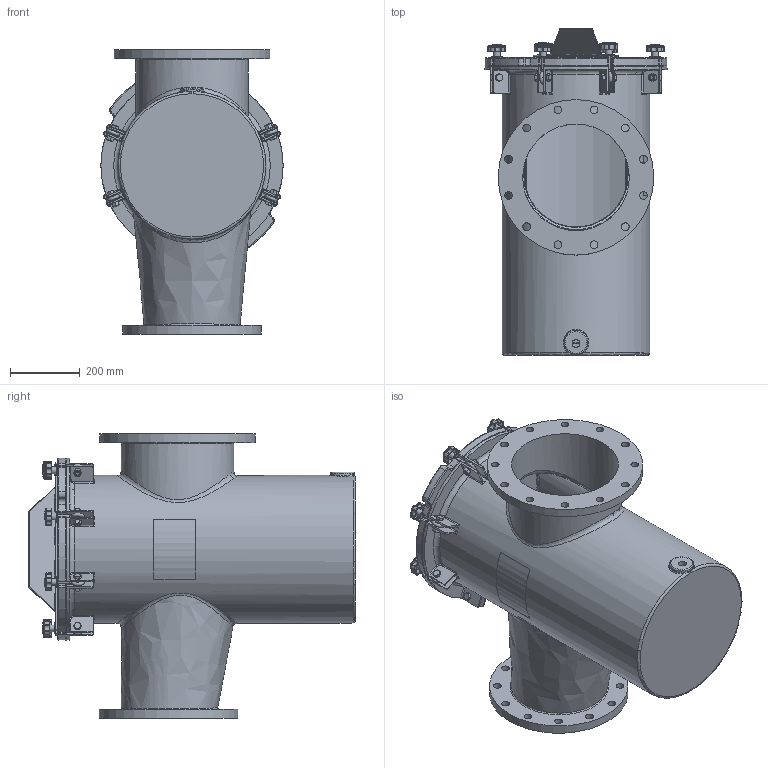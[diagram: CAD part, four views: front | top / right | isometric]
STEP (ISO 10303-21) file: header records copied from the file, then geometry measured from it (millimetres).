
FILE_DESCRIPTION(/* description */ ('300MM X 250MM FIBERGLASS STRAINER BODY'),/* implementation_level */ '2;1');
FILE_NAME(/* name */ 'E:\New folder (7)\Ready for delivery - Do not Disturb -Updated with metric Flange\Workspace\FG Reducing Strainer\Guardian FG Reducing H&L Strainer (Metric)\STRAINER H&L 300MM X 250MM.step',/* time_stamp */ '2016-10-19T04:15:48+06:00',/* author */ ('20076253'),/* organization */ (''),/* preprocessor_version */ 'ST-DEVELOPER v16.1',/* originating_system */ 'Autodesk Inventor 2016',/* authorisation */ '');
FILE_SCHEMA (('AUTOMOTIVE_DESIGN { 1 0 10303 214 3 1 1 }'));
Length unit declared in the file: inch
Products named in the file (24): NBFGBODY12X10MM; 150NBCVR20R2; 150NBGSK16R1; Perforated Basket 16in; Bride (Ring) 16in; Baffle 16in; Handle 16in; Bottom Strainer 16in; NBBSK10T316; BRACESTRCVR16_Welds; BRACE (BASE) FOR 16 BODY; BRACE (PROJ) FOR 16 BODY; Bumper; BRACESTRCVR16; Nut- 1_2  UNC; Bolt-1_2 x 1 1_2  UNC; EyeBolt; Washer; Knob M10; Securing Assembly For FG  with Brace; Securing Assembly For FG without Brace; Label for 16.625 inch (Right); Label for 16.625 inch (Left); STRAINER H&L 300MM X 250MM
Assembly tree (39 placements, depth 3):
  STRAINER H&L 300MM X 250MM
    NBFGBODY12X10MM
    150NBCVR20R2
    150NBGSK16R1
    NBBSK10T316
      Perforated Basket 16in
      Bride (Ring) 16in
      Baffle 16in
      Handle 16in
      Bottom Strainer 16in
    BRACESTRCVR16
      BRACESTRCVR16_Welds
      BRACE (BASE) FOR 16 BODY
      BRACE (PROJ) FOR 16 BODY
      Bumper  x6
    Securing Assembly For FG  with Brace  x2
      Nut- 1_2  UNC
      Bolt-1_2 x 1 1_2  UNC
      EyeBolt
      Washer
      Knob M10
    Securing Assembly For FG without Brace  x6
      Nut- 1_2  UNC
      Bolt-1_2 x 1 1_2  UNC
      EyeBolt
      Washer
      Knob M10
    Label for 16.625 inch (Right)
    Label for 16.625 inch (Left)
Bounding box: 520.7 x 933.45 x 812.8 mm (x, y, z)
Volume: 23965441.6 mm3; surface area: 5943447.2 mm2
Topology: 66 solids, 66 shells, 1808 faces, 4125 edges, 2438 vertices
Faces by surface type: cylinder 662, plane 500, cone 184, torus 166, sphere 158, bspline 138
Full cylindrical faces by diameter (mm): 3.175 x11, 6.35 x2, 8.382 x8, 9.525 x16, 10.592 x8, 12.7 x8, 15.875 x16, 19 x16, 19.05 x8, 22.098 x24, 22.809 x1, 31.75 x8, 68.263 x1, 295.275 x2, 298.45 x1, 300.99 x1, 304.8 x1, 320.675 x1, 396.24 x1, 406.4 x2, 409.575 x1, 415.925 x1, 422.275 x1, 444.5 x1, 457.2 x1, 463.55 x1
Entity records: 34420 total; most frequent: CARTESIAN_POINT 11509, DIRECTION 4739, ORIENTED_EDGE 4316, EDGE_CURVE 2158, AXIS2_PLACEMENT_3D 1946, VERTEX_POINT 1355, EDGE_LOOP 1183, ADVANCED_FACE 958
